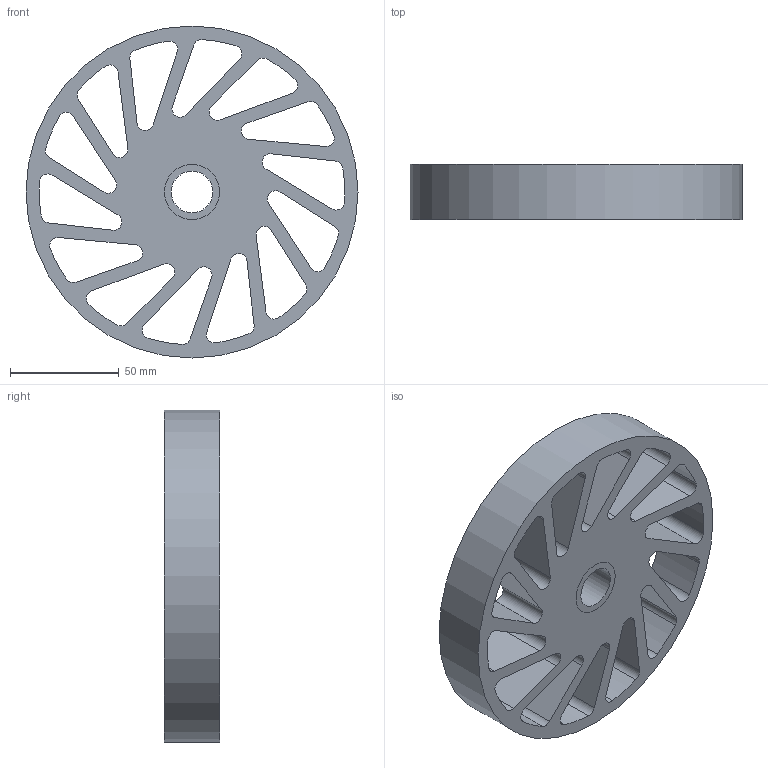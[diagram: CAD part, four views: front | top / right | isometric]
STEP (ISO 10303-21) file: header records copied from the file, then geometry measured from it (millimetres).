
FILE_DESCRIPTION(/* description */ (''),/* implementation_level */ '2;1');
FILE_NAME(/* name */ 'C:\Users\Owner\Desktop\Meridian Stuff\Oilite\NCWOB-570-XXX.stp',/* time_stamp */ '2023-05-22T17:19:49-05:00',/* author */ ('ASG'),/* organization */ ('Meridian Laboratory '),/* preprocessor_version */ 'ST-DEVELOPER v19',/* originating_system */ 'Autodesk Inventor 2023',/* authorisation */ '');
FILE_SCHEMA (('AUTOMOTIVE_DESIGN { 1 0 10303 214 3 1 1 }'));
Length unit declared in the file: inch
Products named in the file (1): NCWOB-540-XXX
Bounding box: 152.4 x 25.4 x 152.4 mm (x, y, z)
Volume: 252522.5 mm3; surface area: 74524 mm2
Topology: 2 solids, 2 shells, 92 faces, 264 edges, 176 vertices
Faces by surface type: cylinder 60, plane 32
Full cylindrical faces by diameter (mm): 19.101 x1, 25.4 x2, 152.4 x1
Entity records: 3285 total; most frequent: DIRECTION 570, CARTESIAN_POINT 533, ORIENTED_EDGE 528, EDGE_CURVE 264, AXIS2_PLACEMENT_3D 213, VERTEX_POINT 176, LINE 144, VECTOR 144
